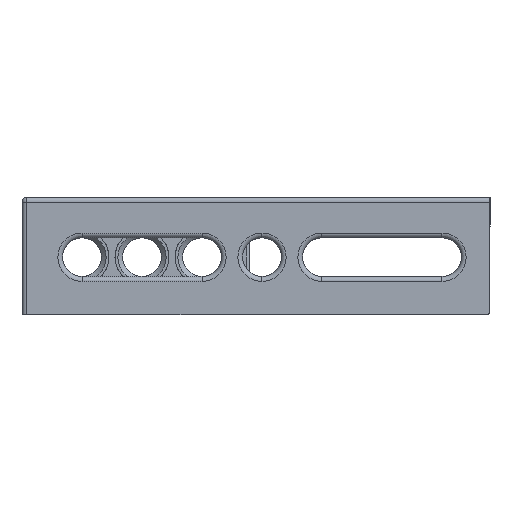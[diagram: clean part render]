
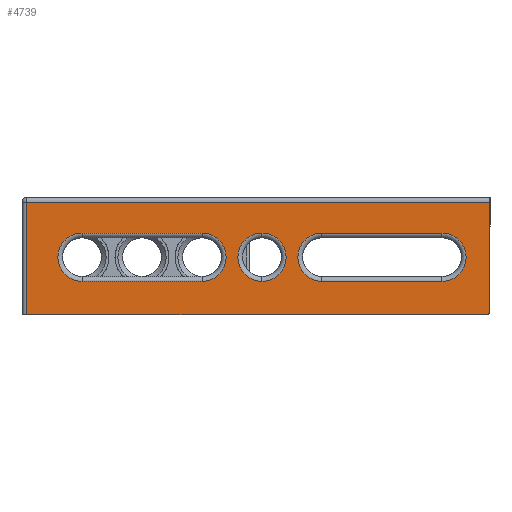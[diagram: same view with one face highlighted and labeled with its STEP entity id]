
A CAD part, front view. The second image highlights one B-rep face of the part: STEP entity #4739.
In plain terms, the highlighted planar face has unit normal (0, -1, 0).
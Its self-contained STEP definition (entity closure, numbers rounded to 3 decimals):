
#7 = VECTOR ( 'NONE', #20136, 1000. ) ;
#83 = LINE ( 'NONE', #3060, #20519 ) ;
#350 = DIRECTION ( 'NONE',  ( 0., 0., -1. ) ) ;
#543 = CIRCLE ( 'NONE', #17503, 10.05 ) ;
#622 = CARTESIAN_POINT ( 'NONE',  ( 25., 0., -35.05 ) ) ;
#959 = EDGE_CURVE ( 'NONE', #7548, #18122, #11259, .T. ) ;
#1016 = EDGE_LOOP ( 'NONE', ( #4484, #18788, #19978, #3116, #20703 ) ) ;
#1107 = CARTESIAN_POINT ( 'NONE',  ( 25., 0., -35.05 ) ) ;
#1279 = CIRCLE ( 'NONE', #18921, 10.05 ) ;
#1353 = DIRECTION ( 'NONE',  ( 0., 0., -1. ) ) ;
#1457 = DIRECTION ( 'NONE',  ( 0., 0., -1. ) ) ;
#1730 = ORIENTED_EDGE ( 'NONE', *, *, #12130, .T. ) ;
#2115 = CARTESIAN_POINT ( 'NONE',  ( 195., 0., -2. ) ) ;
#2533 = CARTESIAN_POINT ( 'NONE',  ( 125., 0., -35.05 ) ) ;
#2565 = VERTEX_POINT ( 'NONE', #9624 ) ;
#2615 = CARTESIAN_POINT ( 'NONE',  ( 2., 0., -49. ) ) ;
#2963 = AXIS2_PLACEMENT_3D ( 'NONE', #4920, #11185, #20968 ) ;
#3060 = CARTESIAN_POINT ( 'NONE',  ( 195., 0., -49. ) ) ;
#3116 = ORIENTED_EDGE ( 'NONE', *, *, #4858, .T. ) ;
#3127 = EDGE_CURVE ( 'NONE', #10466, #10734, #16619, .T. ) ;
#3420 = DIRECTION ( 'NONE',  ( 0., 1., 0. ) ) ;
#3538 = ORIENTED_EDGE ( 'NONE', *, *, #7464, .T. ) ;
#4237 = PLANE ( 'NONE',  #19627 ) ;
#4448 = ORIENTED_EDGE ( 'NONE', *, *, #16099, .T. ) ;
#4484 = ORIENTED_EDGE ( 'NONE', *, *, #959, .T. ) ;
#4534 = DIRECTION ( 'NONE',  ( 0., 0., -1. ) ) ;
#4733 = VECTOR ( 'NONE', #13056, 1000. ) ;
#4739 = ADVANCED_FACE ( 'NONE', ( #5840, #14202, #17084, #6047 ), #4237, .T. ) ;
#4858 = EDGE_CURVE ( 'NONE', #10734, #18408, #7763, .T. ) ;
#4884 = DIRECTION ( 'NONE',  ( 0., 1., 0. ) ) ;
#4920 = CARTESIAN_POINT ( 'NONE',  ( 100., 0., -25. ) ) ;
#5190 = CIRCLE ( 'NONE', #5856, 10.05 ) ;
#5462 = AXIS2_PLACEMENT_3D ( 'NONE', #19095, #14626, #4534 ) ;
#5683 = VERTEX_POINT ( 'NONE', #19879 ) ;
#5796 = VERTEX_POINT ( 'NONE', #15166 ) ;
#5840 = FACE_BOUND ( 'NONE', #17937, .T. ) ;
#5856 = AXIS2_PLACEMENT_3D ( 'NONE', #19910, #10334, #350 ) ;
#6047 = FACE_OUTER_BOUND ( 'NONE', #1016, .T. ) ;
#6512 = DIRECTION ( 'NONE',  ( 0., 0., -1. ) ) ;
#6612 = CARTESIAN_POINT ( 'NONE',  ( 75., 0., -25. ) ) ;
#6857 = CARTESIAN_POINT ( 'NONE',  ( 100., 0., -35.05 ) ) ;
#6879 = CARTESIAN_POINT ( 'NONE',  ( 175., 0., -14.95 ) ) ;
#6881 = EDGE_LOOP ( 'NONE', ( #11416, #15481, #1730, #3538 ) ) ;
#6911 = EDGE_CURVE ( 'NONE', #13741, #10172, #8731, .T. ) ;
#6915 = CARTESIAN_POINT ( 'NONE',  ( 175., 0., -25. ) ) ;
#7098 = AXIS2_PLACEMENT_3D ( 'NONE', #8165, #12821, #1457 ) ;
#7405 = CIRCLE ( 'NONE', #10103, 10.05 ) ;
#7464 = EDGE_CURVE ( 'NONE', #5796, #2565, #7405, .T. ) ;
#7548 = VERTEX_POINT ( 'NONE', #2115 ) ;
#7571 = VERTEX_POINT ( 'NONE', #622 ) ;
#7747 = CARTESIAN_POINT ( 'NONE',  ( 25., 0., -25. ) ) ;
#7763 = CIRCLE ( 'NONE', #7098, 1.5 ) ;
#7777 = CARTESIAN_POINT ( 'NONE',  ( 195., 0., -47.5 ) ) ;
#8066 = VERTEX_POINT ( 'NONE', #9193 ) ;
#8153 = CARTESIAN_POINT ( 'NONE',  ( 125., 0., -35.05 ) ) ;
#8165 = CARTESIAN_POINT ( 'NONE',  ( 193.5, 0., -47.5 ) ) ;
#8731 = CIRCLE ( 'NONE', #2963, 10.05 ) ;
#9000 = ORIENTED_EDGE ( 'NONE', *, *, #19541, .T. ) ;
#9025 = CARTESIAN_POINT ( 'NONE',  ( 125., 0., -14.95 ) ) ;
#9193 = CARTESIAN_POINT ( 'NONE',  ( 25., 0., -14.95 ) ) ;
#9490 = DIRECTION ( 'NONE',  ( -1., 0., 0. ) ) ;
#9624 = CARTESIAN_POINT ( 'NONE',  ( 175., 0., -35.05 ) ) ;
#9753 = CARTESIAN_POINT ( 'NONE',  ( 0., 0., -2. ) ) ;
#10103 = AXIS2_PLACEMENT_3D ( 'NONE', #6915, #4884, #13153 ) ;
#10156 = LINE ( 'NONE', #11851, #11235 ) ;
#10172 = VERTEX_POINT ( 'NONE', #17318 ) ;
#10334 = DIRECTION ( 'NONE',  ( 0., 1., 0. ) ) ;
#10466 = VERTEX_POINT ( 'NONE', #2615 ) ;
#10734 = VERTEX_POINT ( 'NONE', #19923 ) ;
#11185 = DIRECTION ( 'NONE',  ( 0., 1., 0. ) ) ;
#11188 = ORIENTED_EDGE ( 'NONE', *, *, #6911, .T. ) ;
#11235 = VECTOR ( 'NONE', #19940, 1000. ) ;
#11259 = LINE ( 'NONE', #9753, #4733 ) ;
#11392 = VERTEX_POINT ( 'NONE', #9025 ) ;
#11416 = ORIENTED_EDGE ( 'NONE', *, *, #19479, .T. ) ;
#11632 = LINE ( 'NONE', #6879, #7 ) ;
#11851 = CARTESIAN_POINT ( 'NONE',  ( 75., 0., -14.95 ) ) ;
#12130 = EDGE_CURVE ( 'NONE', #11392, #5796, #11632, .T. ) ;
#12505 = DIRECTION ( 'NONE',  ( 0., -1., 0. ) ) ;
#12821 = DIRECTION ( 'NONE',  ( 0., -1., 0. ) ) ;
#13056 = DIRECTION ( 'NONE',  ( -1., 0., 0. ) ) ;
#13153 = DIRECTION ( 'NONE',  ( 0., 0., -1. ) ) ;
#13428 = CARTESIAN_POINT ( 'NONE',  ( 0., 0., -49. ) ) ;
#13698 = EDGE_CURVE ( 'NONE', #18770, #11392, #5190, .T. ) ;
#13741 = VERTEX_POINT ( 'NONE', #6857 ) ;
#13888 = DIRECTION ( 'NONE',  ( 0., 0., -1. ) ) ;
#14198 = DIRECTION ( 'NONE',  ( 0., 1., 0. ) ) ;
#14202 = FACE_BOUND ( 'NONE', #6881, .T. ) ;
#14346 = ORIENTED_EDGE ( 'NONE', *, *, #18139, .T. ) ;
#14626 = DIRECTION ( 'NONE',  ( 0., 1., 0. ) ) ;
#15117 = VECTOR ( 'NONE', #6512, 1000. ) ;
#15166 = CARTESIAN_POINT ( 'NONE',  ( 175., 0., -14.95 ) ) ;
#15252 = EDGE_CURVE ( 'NONE', #5683, #7571, #19272, .T. ) ;
#15481 = ORIENTED_EDGE ( 'NONE', *, *, #13698, .T. ) ;
#15684 = LINE ( 'NONE', #2533, #16189 ) ;
#16099 = EDGE_CURVE ( 'NONE', #10172, #13741, #18358, .T. ) ;
#16145 = EDGE_CURVE ( 'NONE', #8066, #19169, #10156, .T. ) ;
#16189 = VECTOR ( 'NONE', #18783, 1000. ) ;
#16348 = CARTESIAN_POINT ( 'NONE',  ( 75., 0., -14.95 ) ) ;
#16619 = LINE ( 'NONE', #13428, #19819 ) ;
#16843 = ORIENTED_EDGE ( 'NONE', *, *, #16145, .T. ) ;
#17084 = FACE_BOUND ( 'NONE', #17997, .T. ) ;
#17318 = CARTESIAN_POINT ( 'NONE',  ( 100., 0., -14.95 ) ) ;
#17443 = CARTESIAN_POINT ( 'NONE',  ( 2., 0., -49. ) ) ;
#17503 = AXIS2_PLACEMENT_3D ( 'NONE', #6612, #3420, #18180 ) ;
#17783 = VECTOR ( 'NONE', #9490, 1000. ) ;
#17937 = EDGE_LOOP ( 'NONE', ( #11188, #4448 ) ) ;
#17956 = CARTESIAN_POINT ( 'NONE',  ( 2., 0., -2. ) ) ;
#17997 = EDGE_LOOP ( 'NONE', ( #20015, #9000, #16843, #14346 ) ) ;
#18081 = EDGE_CURVE ( 'NONE', #18122, #10466, #19050, .T. ) ;
#18122 = VERTEX_POINT ( 'NONE', #17956 ) ;
#18139 = EDGE_CURVE ( 'NONE', #19169, #5683, #543, .T. ) ;
#18180 = DIRECTION ( 'NONE',  ( 0., 0., -1. ) ) ;
#18358 = CIRCLE ( 'NONE', #5462, 10.05 ) ;
#18408 = VERTEX_POINT ( 'NONE', #7777 ) ;
#18770 = VERTEX_POINT ( 'NONE', #8153 ) ;
#18783 = DIRECTION ( 'NONE',  ( -1., 0., 0. ) ) ;
#18786 = CARTESIAN_POINT ( 'NONE',  ( 0., 0., -49. ) ) ;
#18788 = ORIENTED_EDGE ( 'NONE', *, *, #18081, .T. ) ;
#18921 = AXIS2_PLACEMENT_3D ( 'NONE', #7747, #14198, #1353 ) ;
#19050 = LINE ( 'NONE', #17443, #15117 ) ;
#19095 = CARTESIAN_POINT ( 'NONE',  ( 100., 0., -25. ) ) ;
#19169 = VERTEX_POINT ( 'NONE', #16348 ) ;
#19272 = LINE ( 'NONE', #1107, #17783 ) ;
#19311 = DIRECTION ( 'NONE',  ( 0., 0., 1. ) ) ;
#19479 = EDGE_CURVE ( 'NONE', #2565, #18770, #15684, .T. ) ;
#19541 = EDGE_CURVE ( 'NONE', #7571, #8066, #1279, .T. ) ;
#19627 = AXIS2_PLACEMENT_3D ( 'NONE', #18786, #12505, #13888 ) ;
#19819 = VECTOR ( 'NONE', #19924, 1000. ) ;
#19879 = CARTESIAN_POINT ( 'NONE',  ( 75., 0., -35.05 ) ) ;
#19910 = CARTESIAN_POINT ( 'NONE',  ( 125., 0., -25. ) ) ;
#19924 = DIRECTION ( 'NONE',  ( 1., 0., 0. ) ) ;
#19923 = CARTESIAN_POINT ( 'NONE',  ( 193.5, 0., -49. ) ) ;
#19940 = DIRECTION ( 'NONE',  ( 1., 0., 0. ) ) ;
#19978 = ORIENTED_EDGE ( 'NONE', *, *, #3127, .T. ) ;
#20015 = ORIENTED_EDGE ( 'NONE', *, *, #15252, .T. ) ;
#20136 = DIRECTION ( 'NONE',  ( 1., 0., 0. ) ) ;
#20519 = VECTOR ( 'NONE', #19311, 1000. ) ;
#20703 = ORIENTED_EDGE ( 'NONE', *, *, #20796, .T. ) ;
#20796 = EDGE_CURVE ( 'NONE', #18408, #7548, #83, .T. ) ;
#20968 = DIRECTION ( 'NONE',  ( 0., 0., -1. ) ) ;
